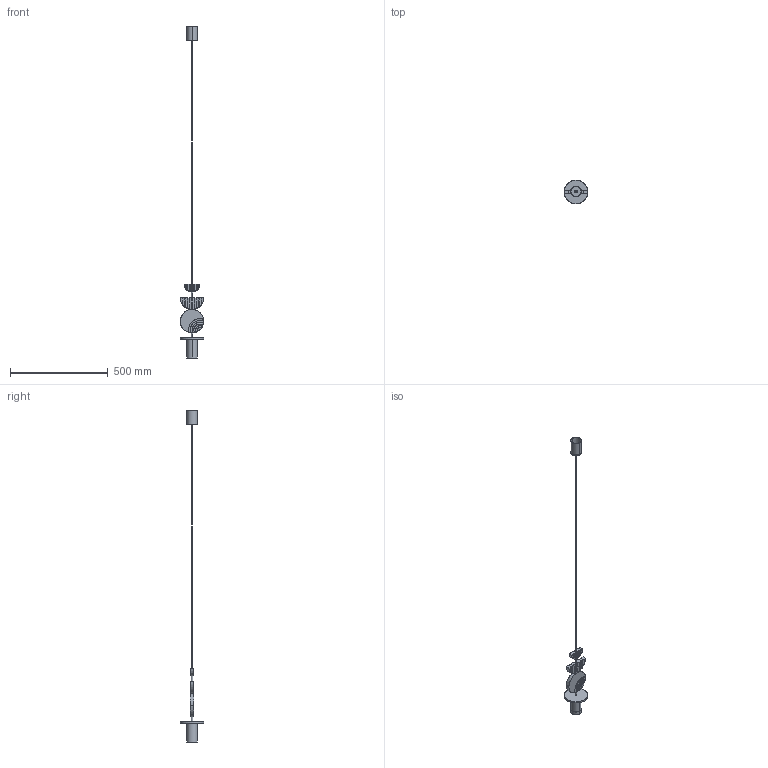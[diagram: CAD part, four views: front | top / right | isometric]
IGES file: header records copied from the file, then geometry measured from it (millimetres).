
Start section: SolidWorks IGES file using analytic representation for surfaces
Global section: file name: C:\Users\anna.bielnik\Desktop\DROPS COLOR II.IGS; native system: SolidWorks 2024; preprocessor: SolidWorks 2024; author: anna.bielnik; date: 251205.085542; units: millimetre
Bounding box: 120.05 x 120 x 1700 mm (x, y, z)
Surface area: 184964.2 mm2 (no closed solid volume)
Topology: 0 solids, 0 shells, 144 faces, 3713 edges, 3713 vertices
Faces by surface type: bspline 78, revolution 66
